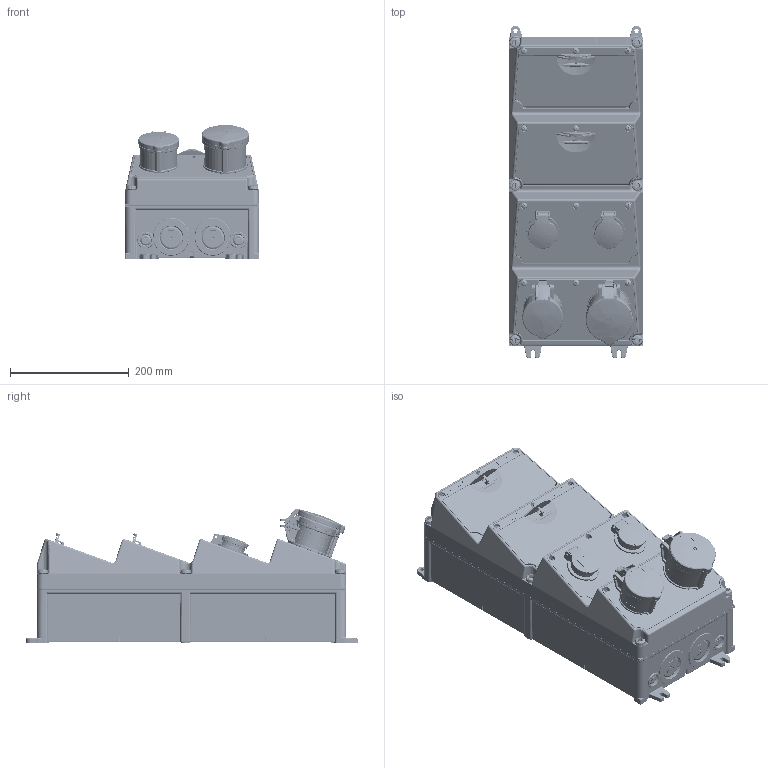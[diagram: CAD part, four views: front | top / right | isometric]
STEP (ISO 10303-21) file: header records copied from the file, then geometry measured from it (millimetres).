
FILE_DESCRIPTION((''),'2;1');
FILE_NAME('949619-2_ASM_1_ASM','2024-11-21T10:24:36',('kremer'),('MENNEKES'),'CREO PARAMETRIC BY PTC INC, 2023134','CREO PARAMETRIC BY PTC INC, 2023134','');
FILE_SCHEMA(('AUTOMOTIVE_DESIGN { 1 0 10303 214 1 1 1 1 }'));
Products named in the file (10): 4-4_SW_O_GRAU_1; FILS_3_NPOL_6TE_1; FILS_2POL_2TE_1; MP_LEER_GRAU_1; MP_FEN10_44_OBEN_GRAU_1; BAUTEIL_DUMMY_1; AMAXX_CEE_32_5_44_ROT_1; AMAXX_CEE_16_5_44_ROT_1; AMAXX_SCHUKO_44_BLAU_1; 949619-2_ASM_1_ASM
Assembly tree (13 placements, depth 2):
  949619-2_ASM_1_ASM
    4-4_SW_O_GRAU_1
    FILS_3_NPOL_6TE_1  x2
    FILS_2POL_2TE_1
    MP_LEER_GRAU_1  x2
    MP_FEN10_44_OBEN_GRAU_1  x2
    BAUTEIL_DUMMY_1
    AMAXX_CEE_32_5_44_ROT_1
    AMAXX_CEE_16_5_44_ROT_1
    AMAXX_SCHUKO_44_BLAU_1  x2
Bounding box: 225 x 558.2 x 225.77 mm (x, y, z)
Volume: 13617294.6 mm3; surface area: 1381029.8 mm2
Topology: 12 solids, 12 shells, 13565 faces, 36776 edges, 23252 vertices
Faces by surface type: plane 6002, cylinder 3267, bspline 1850, torus 1201, cone 842, sphere 303, extrusion 100
Entity records: 557022 total; most frequent: CARTESIAN_POINT 153756, ORIENTED_EDGE 55126, DIRECTION 48216, PRESENTATION_STYLE_ASSIGNMENT 35270, STYLED_ITEM 27581, CURVE_STYLE 27573, EDGE_CURVE 27563, VERTEX_POINT 17460
